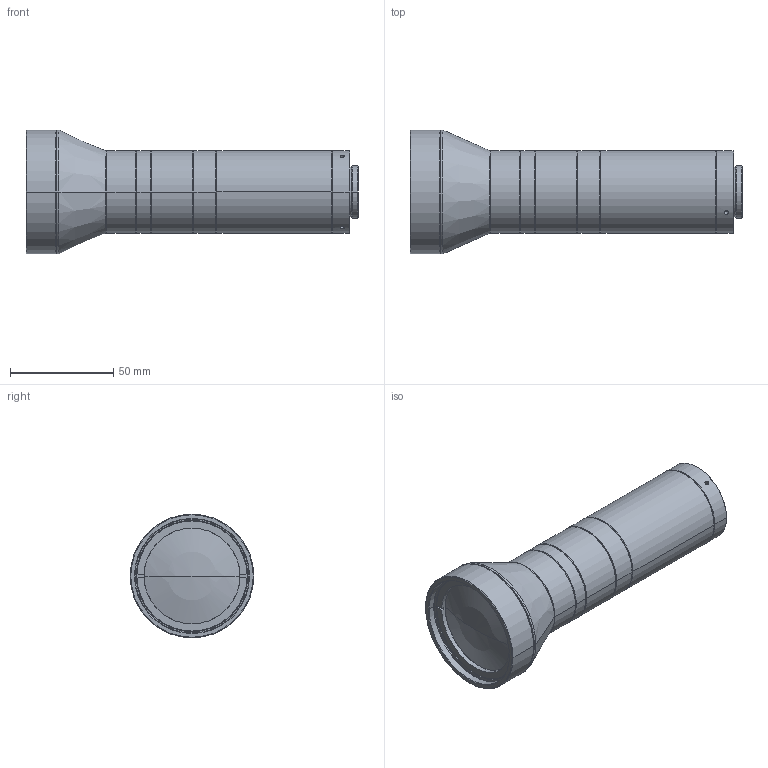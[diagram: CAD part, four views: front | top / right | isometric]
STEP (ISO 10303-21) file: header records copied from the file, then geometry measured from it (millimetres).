
FILE_DESCRIPTION((''),'2;1');
FILE_NAME('PRT0001','2021-05-18T09:47:29',('SCI-X3'),(''),'CREO PARAMETRIC BY PTC INC, 2019224','CREO PARAMETRIC BY PTC INC, 2019224','');
FILE_SCHEMA(('AUTOMOTIVE_DESIGN { 1 0 10303 214 1 1 1 1 }'));
Length unit declared in the file: millimetre
Products named in the file (1): PRT0001
Bounding box: 161.14 x 60 x 60 mm (x, y, z)
Volume: 216889.2 mm3; surface area: 31447.8 mm2
Topology: 1 solids, 2 shells, 139 faces, 309 edges, 184 vertices
Faces by surface type: cylinder 61, cone 44, plane 28, sphere 4, torus 2
Entity records: 4218 total; most frequent: CARTESIAN_POINT 1013, DIRECTION 717, ORIENTED_EDGE 610, EDGE_CURVE 305, AXIS2_PLACEMENT_3D 304, VERTEX_POINT 184, CIRCLE 164, EDGE_LOOP 161
